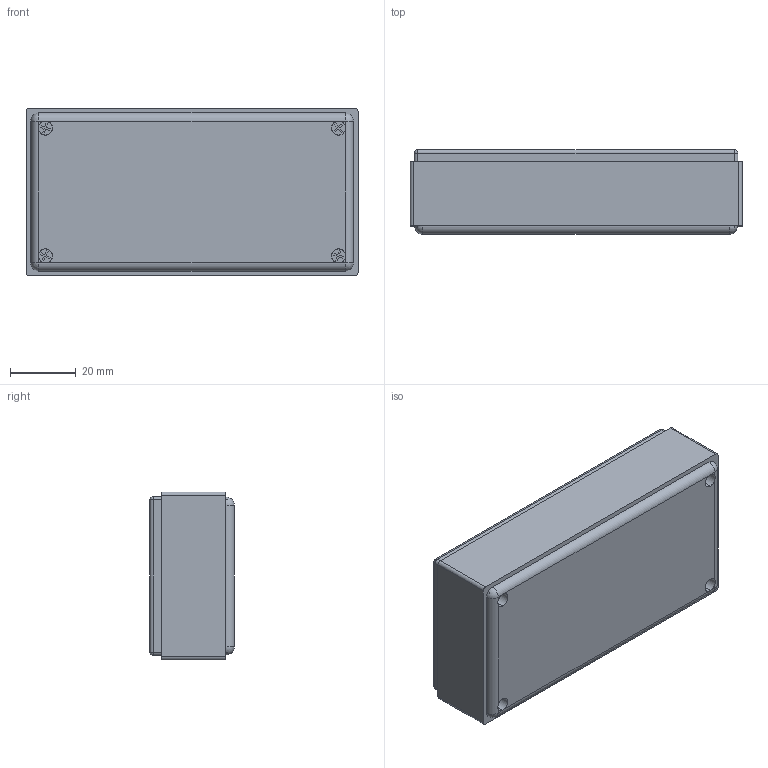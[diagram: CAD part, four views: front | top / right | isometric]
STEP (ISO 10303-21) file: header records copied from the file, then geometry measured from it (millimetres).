
FILE_DESCRIPTION (( 'STEP AP214' ), '1' );
FILE_NAME ('Conjunt PP41.STEP', '2016-10-07T10:31:20', ( 'aaa' ), ( '' ), 'SwSTEP 2.0', 'SolidWorks 2013', '' );
FILE_SCHEMA (( 'AUTOMOTIVE_DESIGN' ));
Length unit declared in the file: millimetre
Products named in the file (5): Conjunt PP41; Cargol M 3x8 PP41; Cargol 2,1x6,5 PP41; Tapa PP41; Cuerpo PP41
Assembly tree (10 placements, depth 2):
  Conjunt PP41
    Cuerpo PP41
    Tapa PP41
    Cargol 2,1x6,5 PP41  x4
    Cargol M 3x8 PP41  x4
Bounding box: 100.8 x 25.6 x 51 mm (x, y, z)
Volume: 35034 mm3; surface area: 38077.4 mm2
Topology: 10 solids, 10 shells, 795 faces, 1720 edges, 952 vertices
Faces by surface type: cone 528, plane 170, cylinder 89, sphere 8
Entity records: 8510 total; most frequent: DIRECTION 1574, CARTESIAN_POINT 1426, ORIENTED_EDGE 1328, EDGE_CURVE 664, AXIS2_PLACEMENT_3D 606, VERTEX_POINT 394, VECTOR 362, LINE 362
